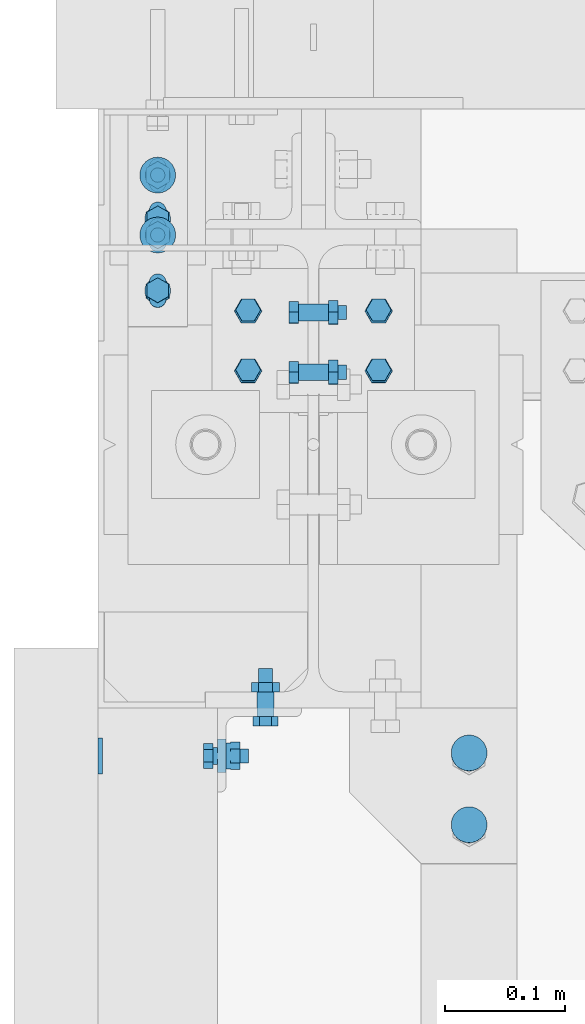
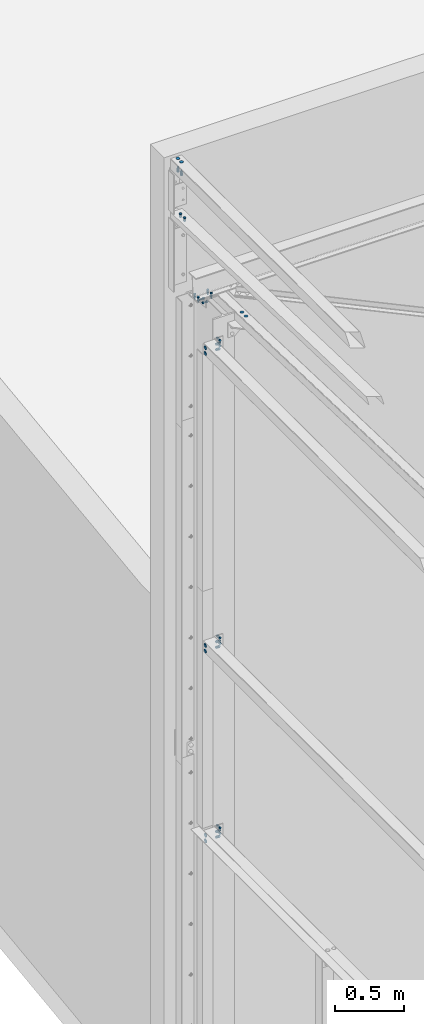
# One storey, part 241 of 362: 16 mechanical fasteners.
"""IFC2X3 building model written with IfcOpenShell, lengths in millimetres."""

from ifc_helpers import new_model, si_unit, frame, frame_2d, origin_with_axes, origin_2d_with_axis, place, context, subcontext, project, spatial, polyline, circle_curve, parameter, trimmed, segment, composite_curve, circle, outline, extrude, source, transform, mapped, material, type_object, element, save


model = new_model("IFC2X3")

# Units and contexts
model_context = context("Model", 3, precision=1e-05, world=origin_with_axes())
body_context = subcontext(model_context, "Body", "Model", "MODEL_VIEW")
ifc_project = project(units=[si_unit("LENGTHUNIT", "METRE", prefix="MILLI"), si_unit("AREAUNIT", "SQUARE_METRE"), si_unit("VOLUMEUNIT", "CUBIC_METRE"), si_unit("MASSUNIT", "GRAM", prefix="KILO"), si_unit("TIMEUNIT", "SECOND"), si_unit("PLANEANGLEUNIT", "RADIAN"), si_unit("SOLIDANGLEUNIT", "STERADIAN"), si_unit("THERMODYNAMICTEMPERATUREUNIT", "DEGREE_CELSIUS"), si_unit("LUMINOUSINTENSITYUNIT", "LUMEN")], contexts=[model_context])

# Site, building, storey
site_placement = place(None, origin_with_axes())
site = spatial("IfcSite", under=ifc_project, at=site_placement, Name="Undefined", CompositionType="ELEMENT")
building_placement = place(site_placement, origin_with_axes())
building = spatial("IfcBuilding", under=site, at=building_placement, Name="Undefined", CompositionType="ELEMENT")
storey_placement = place(building_placement, origin_with_axes())
storey = spatial("IfcBuildingStorey", under=building, at=storey_placement, Name="Undefined", CompositionType="ELEMENT", Elevation=0.0)

# Mechanical fasteners
ifc_material_1 = material(Name="6.8")
mechanical_fastener_type = type_object("IfcMechanicalFastenerType", Name="Bolt assembly")
shared_shape_1 = source(origin_with_axes(), body_context, "Body", "SweptSolid", [
    extrude(circle(Radius=15.0, at=origin_2d_with_axis()), frame((0.0, 0.0, 0.0), z_axis=(0.0, 1.0, 0.0), x_axis=(1.0, 0.0, 0.0)), (0.0, 0.0, 1.0), 4.1),
])
for number, where, z_axis, x_axis, name in (
    (1, (-180.000001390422, 14850.0031003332, 7150.00005188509), (0.0, 0.0, -1.0), (0.0, 1.0, 0.0), "Bolt assembly"),
    (2, (-180.000001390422, 14850.0031509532, 2810.00002755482), (0.0, 0.0, -1.0), (0.0, 1.0, 0.0), "Bolt assembly"),
    (3, (-180.000001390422, 14850.0031374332, 4500.00002767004), (0.0, 0.0, -1.0), (0.0, 1.0, 0.0), "Bolt assembly"),
):
    element("IfcMechanicalFastener", number, at=place(storey_placement, frame(where, z_axis=z_axis, x_axis=x_axis)), inside=storey, type_object=mechanical_fastener_type, material=ifc_material_1, Name=name, NominalDiameter=30.0, NominalLength=4.0, context=body_context, shape_type="MappedRepresentation", body=[
        mapped(shared_shape_1, transform((0.0, 0.0, 25.0))),
        mapped(shared_shape_1, transform((0.0, 0.0, -25.0))),
    ])
mechanical_fastener_1_placement = place(storey_placement, frame((129.999999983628, 14792.5622083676, 7385.02610549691), z_axis=(-1.0, 0.0, 0.0), x_axis=(3.14103090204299e-11, 0.999506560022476, -0.0314107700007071)))
element("IfcMechanicalFastener", 4, at=mechanical_fastener_1_placement, inside=storey, type_object=mechanical_fastener_type, material=ifc_material_1, Name="Bolt assembly", NominalDiameter=30.0, NominalLength=4.0, context=body_context, shape_type="MappedRepresentation", body=[
    mapped(shared_shape_1, transform((0.0, 0.0, 0.0))),
    mapped(shared_shape_1, transform((60.0, 0.0, 0.0))),
])
shared_shape_2 = source(origin_with_axes(), body_context, "Body", "SweptSolid", [
    extrude(circle(Radius=15.0, at=origin_2d_with_axis()), frame((0.0, -3.99702093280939, 0.0), z_axis=(0.0, 1.0, 0.0), x_axis=(1.0, 0.0, 0.0)), (0.0, 0.0, 1.0), 4.1),
])
mechanical_fastener_2_placement = place(storey_placement, frame((-129.997016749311, 15285.0, 8549.99702093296), z_axis=(1.0, 0.0, 0.0), x_axis=(0.0, 1.0, 0.0)))
element("IfcMechanicalFastener", 5, at=mechanical_fastener_2_placement, inside=storey, type_object=mechanical_fastener_type, material=ifc_material_1, Name="Bolt assembly", NominalDiameter=30.0, NominalLength=4.0, context=body_context, shape_type="MappedRepresentation", body=[
    mapped(shared_shape_2, transform((0.0, 0.0, 0.0))),
    mapped(shared_shape_2, transform((49.9999999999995, 0.0, -3.63797880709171e-12))),
])
ifc_material_2 = material(Name="8.8-SB-ZINGUE")
shared_shape_3 = source(origin_with_axes(), body_context, "Body", "SweptSolid", [
    extrude(circle(Radius=7.0, at=origin_2d_with_axis()), frame((0.0, -3.89999843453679, 0.0), z_axis=(0.0, 1.0, 0.0), x_axis=(1.0, 0.0, 0.0)), (0.0, 0.0, 1.0), 4.0),
    extrude(outline(composite_curve([segment(polyline([(-7.0, 7.0), (7.0, 7.0)]), True, "CONTINUOUS"), segment(trimmed(circle_curve(frame_2d((7.0, 0.0), x_axis=(0.0, 1.0)), 7.0), [parameter(0.0)], [parameter(3.14159265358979)], False, "PARAMETER"), True, "CONTINUOUS"), segment(polyline([(7.0, -7.0), (-7.0, -7.0)]), True, "CONTINUOUS"), segment(trimmed(circle_curve(frame_2d((-7.0, 0.0), x_axis=(0.0, -1.0)), 7.0), [parameter(0.0)], [parameter(3.14159265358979)], False, "PARAMETER"), True, "DISCONTINUOUS")], self_intersect=False)), frame((0.0, -0.100011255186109, 0.0), z_axis=(0.0, 1.0, 0.0), x_axis=(1.0, 0.0, 0.0)), (0.0, 0.0, 1.0), 7.1),
    extrude(outline(polyline([(10.39230484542, 0.0), (5.19615242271, 9.00000000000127), (-5.19615242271, 9.00000000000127), (-10.39230484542, 0.0), (-5.19615242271, -9.00000000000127), (5.19615242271, -9.00000000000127), (10.39230484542, 0.0)])), frame((0.0, -11.9199984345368, 0.0), z_axis=(0.0, 1.0, 0.0), x_axis=(1.0, 0.0, 0.0)), (0.0, 0.0, 1.0), 7.92),
    extrude(circle(Radius=6.0, at=origin_2d_with_axis()), frame((0.0, -3.99999923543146, 0.0), z_axis=(0.0, 1.0, 0.0), x_axis=(1.0, 0.0, 0.0)), (0.0, 0.0, 1.0), 30.0),
    extrude(circle(Radius=10.8, at=origin_2d_with_axis()), frame((0.0, 7.0, 0.0), z_axis=(0.0, 1.0, 0.0), x_axis=(1.0, 0.0, 0.0)), (0.0, 0.0, 1.0), 3.96),
    extrude(outline(polyline([(11.5008173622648, 0.0), (5.7504086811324, 9.96000000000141), (-5.7504086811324, 9.96000000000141), (-11.5008173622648, 0.0), (-5.7504086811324, -9.96000000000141), (5.7504086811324, -9.96000000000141), (11.5008173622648, 0.0)])), frame((0.0, 10.96, 0.0), z_axis=(0.0, 1.0, 0.0), x_axis=(1.0, 0.0, 0.0)), (0.0, 0.0, 1.0), 7.92),
])
mechanical_fastener_3_placement = place(storey_placement, frame((-80.0000013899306, 14850.0031003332, 7150.00005188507), z_axis=(0.0, 0.0, -1.0), x_axis=(0.0, 1.0, 0.0)))
element("IfcMechanicalFastener", 6, at=mechanical_fastener_3_placement, inside=storey, type_object=mechanical_fastener_type, material=ifc_material_2, Name="Bolt assembly", NominalDiameter=12.0, NominalLength=30.0, context=body_context, shape_type="MappedRepresentation", body=[
    mapped(shared_shape_3, transform((0.0, 0.0, 25.0))),
    mapped(shared_shape_3, transform((0.0, 0.0, -25.0))),
])
shared_shape_4 = source(origin_with_axes(), body_context, "Body", "SweptSolid", [
    extrude(circle(Radius=7.0, at=origin_2d_with_axis()), frame((0.0, -0.103115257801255, 0.0), z_axis=(0.0, 1.0, 0.0), x_axis=(1.0, 0.0, 0.0)), (0.0, 0.0, 1.0), 13.6),
    extrude(circle(Radius=7.0, at=origin_2d_with_axis()), frame((0.0, -6.9, 0.0), z_axis=(0.0, 1.0, 0.0), x_axis=(1.0, 0.0, 0.0)), (0.0, 0.0, 1.0), 7.0),
    extrude(outline(polyline([(10.39230484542, 0.0), (5.19615242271, 9.00000000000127), (-5.19615242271, 9.00000000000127), (-10.39230484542, 0.0), (-5.19615242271, -9.00000000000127), (5.19615242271, -9.00000000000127), (10.39230484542, 0.0)])), frame((0.0, -14.92, 0.0), z_axis=(0.0, 1.0, 0.0), x_axis=(1.0, 0.0, 0.0)), (0.0, 0.0, 1.0), 7.92),
    extrude(circle(Radius=6.0, at=origin_2d_with_axis()), frame((0.0, -7.0, 0.0), z_axis=(0.0, 1.0, 0.0), x_axis=(1.0, 0.0, 0.0)), (0.0, 0.0, 1.0), 40.0),
    extrude(outline(polyline([(11.5008173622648, 0.0), (5.7504086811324, 9.96000000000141), (-5.7504086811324, 9.96000000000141), (-11.5008173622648, 0.0), (-5.7504086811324, -9.96000000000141), (5.7504086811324, -9.96000000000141), (11.5008173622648, 0.0)])), frame((0.0, 13.4968847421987, 0.0), z_axis=(0.0, 1.0, 0.0), x_axis=(1.0, 0.0, 0.0)), (0.0, 0.0, 1.0), 7.92),
])
for number, where, z_axis, x_axis, name in (
    (7, (-40.0000013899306, 14890.0031176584, 7150.00005217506), (0.0, 0.0, -1.0), (-1.0, 0.0, 0.0), "Bolt assembly"),
    (8, (-40.0000013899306, 14890.0031547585, 4500.00002796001), (0.0, 0.0, -1.0), (-1.0, 0.0, 0.0), "Bolt assembly"),
):
    element("IfcMechanicalFastener", number, at=place(storey_placement, frame(where, z_axis=z_axis, x_axis=x_axis)), inside=storey, type_object=mechanical_fastener_type, material=ifc_material_2, Name=name, NominalDiameter=12.0, NominalLength=40.0, context=body_context, shape_type="MappedRepresentation", body=[
        mapped(shared_shape_4, transform((0.0, 0.0, 25.0))),
        mapped(shared_shape_4, transform((0.0, 0.0, -25.0))),
    ])
shared_shape_5 = source(origin_with_axes(), body_context, "Body", "SweptSolid", [
    extrude(circle(Radius=7.0, at=origin_2d_with_axis()), frame((0.0, -3.89999843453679, 0.0), z_axis=(0.0, 1.0, 0.0), x_axis=(1.0, 0.0, 0.0)), (0.0, 0.0, 1.0), 4.0),
    extrude(outline(composite_curve([segment(polyline([(-7.0, 7.0), (7.0, 7.0)]), True, "CONTINUOUS"), segment(trimmed(circle_curve(frame_2d((7.0, 0.0), x_axis=(0.0, 1.0)), 7.0), [parameter(0.0)], [parameter(3.14159265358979)], False, "PARAMETER"), True, "CONTINUOUS"), segment(polyline([(7.0, -7.0), (-7.0, -7.0)]), True, "CONTINUOUS"), segment(trimmed(circle_curve(frame_2d((-7.0, 0.0), x_axis=(0.0, -1.0)), 7.0), [parameter(0.0)], [parameter(3.14159265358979)], False, "PARAMETER"), True, "DISCONTINUOUS")], self_intersect=False)), frame((0.0, -0.100011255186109, 0.0), z_axis=(0.0, 1.0, 0.0), x_axis=(1.0, 0.0, 0.0)), (0.0, 0.0, 1.0), 7.1),
    extrude(outline(polyline([(10.39230484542, 0.0), (5.19615242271, 9.00000000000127), (-5.19615242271, 9.00000000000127), (-10.39230484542, 0.0), (-5.19615242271, -9.00000000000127), (5.19615242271, -9.00000000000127), (10.39230484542, 0.0)])), frame((0.0, -11.9199984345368, 0.0), z_axis=(0.0, 1.0, 0.0), x_axis=(1.0, 0.0, 0.0)), (0.0, 0.0, 1.0), 7.92),
    extrude(circle(Radius=6.0, at=origin_2d_with_axis()), frame((0.0, -3.99999923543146, 0.0), z_axis=(0.0, 1.0, 0.0), x_axis=(1.0, 0.0, 0.0)), (0.0, 0.0, 1.0), 30.0),
    extrude(circle(Radius=10.8, at=origin_2d_with_axis()), frame((0.0, 7.0, 0.0), z_axis=(0.0, 1.0, 0.0), x_axis=(1.0, 0.0, 0.0)), (0.0, 0.0, 1.0), 3.96),
    extrude(outline(polyline([(11.5008173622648, 0.0), (5.7504086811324, 9.96000000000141), (-5.7504086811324, 9.96000000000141), (-11.5008173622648, 0.0), (-5.7504086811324, -9.96000000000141), (5.7504086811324, -9.96000000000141), (11.5008173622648, 0.0)])), frame((0.0, 10.96, 0.0), z_axis=(0.0, 1.0, 0.0), x_axis=(1.0, 0.0, 0.0)), (0.0, 0.0, 1.0), 7.92),
])
mechanical_fastener_4_placement = place(storey_placement, frame((-80.0000013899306, 14850.0031509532, 2810.0000275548), z_axis=(0.0, 0.0, -1.0), x_axis=(0.0, 1.0, 0.0)))
element("IfcMechanicalFastener", 9, at=mechanical_fastener_4_placement, inside=storey, type_object=mechanical_fastener_type, material=ifc_material_2, Name="Bolt assembly", NominalDiameter=12.0, NominalLength=30.0, context=body_context, shape_type="MappedRepresentation", body=[
    mapped(shared_shape_5, transform((0.0, 0.0, 25.0))),
    mapped(shared_shape_5, transform((0.0, 0.0, -25.0))),
])
shared_shape_6 = source(origin_with_axes(), body_context, "Body", "SweptSolid", [
    extrude(circle(Radius=7.0, at=origin_2d_with_axis()), frame((0.0, -0.103165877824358, 0.0), z_axis=(0.0, 1.0, 0.0), x_axis=(1.0, 0.0, 0.0)), (0.0, 0.0, 1.0), 13.6),
    extrude(circle(Radius=7.0, at=origin_2d_with_axis()), frame((0.0, -6.9, 0.0), z_axis=(0.0, 1.0, 0.0), x_axis=(1.0, 0.0, 0.0)), (0.0, 0.0, 1.0), 7.0),
    extrude(outline(polyline([(10.39230484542, 0.0), (5.19615242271, 9.00000000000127), (-5.19615242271, 9.00000000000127), (-10.39230484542, 0.0), (-5.19615242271, -9.00000000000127), (5.19615242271, -9.00000000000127), (10.39230484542, 0.0)])), frame((0.0, -14.92, 0.0), z_axis=(0.0, 1.0, 0.0), x_axis=(1.0, 0.0, 0.0)), (0.0, 0.0, 1.0), 7.92),
    extrude(circle(Radius=6.0, at=origin_2d_with_axis()), frame((0.0, -7.0, 0.0), z_axis=(0.0, 1.0, 0.0), x_axis=(1.0, 0.0, 0.0)), (0.0, 0.0, 1.0), 40.0),
    extrude(outline(polyline([(11.5008173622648, 0.0), (5.7504086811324, 9.96000000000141), (-5.7504086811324, 9.96000000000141), (-11.5008173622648, 0.0), (-5.7504086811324, -9.96000000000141), (5.7504086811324, -9.96000000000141), (11.5008173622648, 0.0)])), frame((0.0, 13.4968341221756, 0.0), z_axis=(0.0, 1.0, 0.0), x_axis=(1.0, 0.0, 0.0)), (0.0, 0.0, 1.0), 7.92),
])
mechanical_fastener_5_placement = place(storey_placement, frame((-40.0000013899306, 14890.0031682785, 2810.00002784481), z_axis=(0.0, 0.0, -1.0), x_axis=(-1.0, 0.0, 0.0)))
element("IfcMechanicalFastener", 10, at=mechanical_fastener_5_placement, inside=storey, type_object=mechanical_fastener_type, material=ifc_material_2, Name="Bolt assembly", NominalDiameter=12.0, NominalLength=40.0, context=body_context, shape_type="MappedRepresentation", body=[
    mapped(shared_shape_6, transform((0.0, 0.0, 25.0))),
    mapped(shared_shape_6, transform((0.0, 0.0, -25.0))),
])
shared_shape_7 = source(origin_with_axes(), body_context, "Body", "SweptSolid", [
    extrude(circle(Radius=7.0, at=origin_2d_with_axis()), frame((0.0, -3.89999843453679, 0.0), z_axis=(0.0, 1.0, 0.0), x_axis=(1.0, 0.0, 0.0)), (0.0, 0.0, 1.0), 4.0),
    extrude(outline(composite_curve([segment(polyline([(-7.0, 7.0), (7.0, 7.0)]), True, "CONTINUOUS"), segment(trimmed(circle_curve(frame_2d((7.0, 0.0), x_axis=(0.0, 1.0)), 7.0), [parameter(0.0)], [parameter(3.14159265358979)], False, "PARAMETER"), True, "CONTINUOUS"), segment(polyline([(7.0, -7.0), (-7.0, -7.0)]), True, "CONTINUOUS"), segment(trimmed(circle_curve(frame_2d((-7.0, 0.0), x_axis=(0.0, -1.0)), 7.0), [parameter(0.0)], [parameter(3.14159265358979)], False, "PARAMETER"), True, "DISCONTINUOUS")], self_intersect=False)), frame((0.0, -0.100011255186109, 0.0), z_axis=(0.0, 1.0, 0.0), x_axis=(1.0, 0.0, 0.0)), (0.0, 0.0, 1.0), 7.1),
    extrude(outline(polyline([(10.39230484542, 0.0), (5.19615242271, 9.00000000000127), (-5.19615242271, 9.00000000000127), (-10.39230484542, 0.0), (-5.19615242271, -9.00000000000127), (5.19615242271, -9.00000000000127), (10.39230484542, 0.0)])), frame((0.0, -11.9199984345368, 0.0), z_axis=(0.0, 1.0, 0.0), x_axis=(1.0, 0.0, 0.0)), (0.0, 0.0, 1.0), 7.92),
    extrude(circle(Radius=6.0, at=origin_2d_with_axis()), frame((0.0, -3.99999923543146, 0.0), z_axis=(0.0, 1.0, 0.0), x_axis=(1.0, 0.0, 0.0)), (0.0, 0.0, 1.0), 30.0),
    extrude(circle(Radius=10.8, at=origin_2d_with_axis()), frame((0.0, 7.0, 0.0), z_axis=(0.0, 1.0, 0.0), x_axis=(1.0, 0.0, 0.0)), (0.0, 0.0, 1.0), 3.96),
    extrude(outline(polyline([(11.5008173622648, 0.0), (5.7504086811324, 9.96000000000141), (-5.7504086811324, 9.96000000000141), (-11.5008173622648, 0.0), (-5.7504086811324, -9.96000000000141), (5.7504086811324, -9.96000000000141), (11.5008173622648, 0.0)])), frame((0.0, 10.96, 0.0), z_axis=(0.0, 1.0, 0.0), x_axis=(1.0, 0.0, 0.0)), (0.0, 0.0, 1.0), 7.92),
])
mechanical_fastener_6_placement = place(storey_placement, frame((-80.0000013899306, 14850.0031374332, 4500.00002767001), z_axis=(0.0, 0.0, -1.0), x_axis=(0.0, 1.0, 0.0)))
element("IfcMechanicalFastener", 11, at=mechanical_fastener_6_placement, inside=storey, type_object=mechanical_fastener_type, material=ifc_material_2, Name="Bolt assembly", NominalDiameter=12.0, NominalLength=30.0, context=body_context, shape_type="MappedRepresentation", body=[
    mapped(shared_shape_7, transform((0.0, 0.0, 25.0))),
    mapped(shared_shape_7, transform((0.0, 0.0, -25.0))),
])
shared_shape_8 = source(origin_with_axes(), body_context, "Body", "SweptSolid", [
    extrude(circle(Radius=7.0, at=origin_2d_with_axis()), frame((0.0, -4.3000001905, 0.0), z_axis=(0.0, 1.0, 0.0), x_axis=(1.0, 0.0, 0.0)), (0.0, 0.0, 1.0), 8.6),
    extrude(circle(Radius=7.0, at=origin_2d_with_axis()), frame((0.0, -12.3999999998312, 0.0), z_axis=(0.0, 1.0, 0.0), x_axis=(1.0, 0.0, 0.0)), (0.0, 0.0, 1.0), 8.0),
    extrude(circle(Radius=7.0, at=origin_2d_with_axis()), frame((0.0, 4.39999999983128, 0.0), z_axis=(0.0, 1.0, 0.0), x_axis=(1.0, 0.0, 0.0)), (0.0, 0.0, 1.0), 8.1),
    extrude(outline(polyline([(10.39230484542, 0.0), (5.19615242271, 9.00000000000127), (-5.19615242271, 9.00000000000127), (-10.39230484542, 0.0), (-5.19615242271, -9.00000000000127), (5.19615242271, -9.00000000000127), (10.39230484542, 0.0)])), frame((0.0, -20.4199999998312, 0.0), z_axis=(0.0, 1.0, 0.0), x_axis=(1.0, 0.0, 0.0)), (0.0, 0.0, 1.0), 7.92),
    extrude(circle(Radius=6.0, at=origin_2d_with_axis()), frame((0.0, -12.4999999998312, 0.0), z_axis=(0.0, 1.0, 0.0), x_axis=(1.0, 0.0, 0.0)), (0.0, 0.0, 1.0), 40.0),
    extrude(outline(polyline([(11.5008173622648, 0.0), (5.7504086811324, 9.96000000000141), (-5.7504086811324, 9.96000000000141), (-11.5008173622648, 0.0), (-5.7504086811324, -9.96000000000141), (5.7504086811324, -9.96000000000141), (11.5008173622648, 0.0)])), frame((0.0, 12.4999999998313, 0.0), z_axis=(0.0, 1.0, 0.0), x_axis=(1.0, 0.0, 0.0)), (0.0, 0.0, 1.0), 7.92),
])
mechanical_fastener_7_placement = place(storey_placement, frame((0.0, 15195.288317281, 7322.34532370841), z_axis=(3.14103090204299e-11, 0.999506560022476, -0.0314107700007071), x_axis=(7.58071938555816e-11, 0.0314107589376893, 0.999506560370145)))
element("IfcMechanicalFastener", 12, at=mechanical_fastener_7_placement, inside=storey, type_object=mechanical_fastener_type, material=ifc_material_2, Name="Bolt assembly", NominalDiameter=12.0, NominalLength=40.0, context=body_context, shape_type="MappedRepresentation", body=[
    mapped(shared_shape_8, transform((0.0, 0.0, -25.0))),
    mapped(shared_shape_8, transform((0.0, 0.0, 25.0))),
])
shared_shape_9 = source(origin_with_axes(), body_context, "Body", "SweptSolid", [
    extrude(circle(Radius=7.0, at=origin_2d_with_axis()), frame((0.0, -8.40001950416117, 0.0), z_axis=(0.0, 1.0, 0.0), x_axis=(1.0, 0.0, 0.0)), (0.0, 0.0, 1.0), 8.5),
    extrude(circle(Radius=7.0, at=origin_2d_with_axis()), frame((0.0, -0.100011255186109, 0.0), z_axis=(0.0, 1.0, 0.0), x_axis=(1.0, 0.0, 0.0)), (0.0, 0.0, 1.0), 8.1),
    extrude(outline(polyline([(10.39230484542, 0.0), (5.19615242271, 9.00000000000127), (-5.19615242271, 9.00000000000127), (-10.39230484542, 0.0), (-5.19615242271, -9.00000000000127), (5.19615242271, -9.00000000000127), (10.39230484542, 0.0)])), frame((0.0, -16.4200195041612, 0.0), z_axis=(0.0, 1.0, 0.0), x_axis=(1.0, 0.0, 0.0)), (0.0, 0.0, 1.0), 7.92),
    extrude(circle(Radius=6.0, at=origin_2d_with_axis()), frame((0.0, -8.5, 0.0), z_axis=(0.0, 1.0, 0.0), x_axis=(1.0, 0.0, 0.0)), (0.0, 0.0, 1.0), 40.0),
    extrude(outline(polyline([(11.5008173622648, 0.0), (5.7504086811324, 9.96000000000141), (-5.7504086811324, 9.96000000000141), (-11.5008173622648, 0.0), (-5.7504086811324, -9.96000000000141), (5.7504086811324, -9.96000000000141), (11.5008173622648, 0.0)])), frame((0.0, 8.00000527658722, 0.0), z_axis=(0.0, 1.0, 0.0), x_axis=(1.0, 0.0, 0.0)), (0.0, 0.0, 1.0), 7.92),
])
for number, where, z_axis, x_axis, name in (
    (13, (54.4999999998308, 15196.8588781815, 7372.32065100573), (0.0, -0.999506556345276, 0.031410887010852), (-1.0, 0.0, 0.0), "Bolt assembly"),
    (14, (-54.4999999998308, 15196.8588781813, 7372.32065100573), (3.14103090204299e-11, 0.999506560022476, -0.0314107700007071), (1.0, 0.0, 0.0), "Bolt assembly"),
):
    element("IfcMechanicalFastener", number, at=place(storey_placement, frame(where, z_axis=z_axis, x_axis=x_axis)), inside=storey, type_object=mechanical_fastener_type, material=ifc_material_2, Name=name, NominalDiameter=12.0, NominalLength=40.0, context=body_context, shape_type="MappedRepresentation", body=[
        mapped(shared_shape_9, transform((0.0, 0.0, -25.0))),
        mapped(shared_shape_9, transform((0.0, 0.0, 25.0))),
    ])
shared_shape_10 = source(origin_with_axes(), body_context, "Body", "SweptSolid", [
    extrude(circle(Radius=7.0, at=origin_2d_with_axis()), frame((0.0, -3.77250161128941, 0.0), z_axis=(0.0, 1.0, 0.0), x_axis=(1.0, 0.0, 0.0)), (0.0, 0.0, 1.0), 4.0),
    extrude(outline(composite_curve([segment(polyline([(-7.0, 7.0), (7.0, 7.0)]), True, "CONTINUOUS"), segment(trimmed(circle_curve(frame_2d((7.0, 0.0), x_axis=(0.0, 1.0)), 7.0), [parameter(0.0)], [parameter(3.14159265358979)], False, "PARAMETER"), True, "CONTINUOUS"), segment(polyline([(7.0, -7.0), (-7.0, -7.0)]), True, "CONTINUOUS"), segment(trimmed(circle_curve(frame_2d((-7.0, 0.0), x_axis=(0.0, -1.0)), 7.0), [parameter(0.0)], [parameter(3.14159265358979)], False, "PARAMETER"), True, "DISCONTINUOUS")], self_intersect=False)), frame((0.0, -0.100011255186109, 0.0), z_axis=(0.0, 1.0, 0.0), x_axis=(1.0, 0.0, 0.0)), (0.0, 0.0, 1.0), 6.1),
    extrude(outline(polyline([(10.39230484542, 0.0), (5.19615242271, 9.00000000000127), (-5.19615242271, 9.00000000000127), (-10.39230484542, 0.0), (-5.19615242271, -9.00000000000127), (5.19615242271, -9.00000000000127), (10.39230484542, 0.0)])), frame((0.0, -11.7925016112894, 0.0), z_axis=(0.0, 1.0, 0.0), x_axis=(1.0, 0.0, 0.0)), (0.0, 0.0, 1.0), 7.92),
    extrude(circle(Radius=6.0, at=origin_2d_with_axis()), frame((0.0, -3.87250161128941, 0.0), z_axis=(0.0, 1.0, 0.0), x_axis=(1.0, 0.0, 0.0)), (0.0, 0.0, 1.0), 30.0),
    extrude(circle(Radius=10.8, at=origin_2d_with_axis()), frame((0.0, 6.0, 0.0), z_axis=(0.0, 1.0, 0.0), x_axis=(1.0, 0.0, 0.0)), (0.0, 0.0, 1.0), 3.96),
    extrude(outline(polyline([(11.5008173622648, 0.0), (5.7504086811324, 9.96000000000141), (-5.7504086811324, 9.96000000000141), (-11.5008173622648, 0.0), (-5.7504086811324, -9.96000000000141), (5.7504086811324, -9.96000000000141), (11.5008173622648, 0.0)])), frame((0.0, 9.9600084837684, 0.0), z_axis=(0.0, 1.0, 0.0), x_axis=(1.0, 0.0, 0.0)), (0.0, 0.0, 1.0), 7.92),
])
mechanical_fastener_8_placement = place(storey_placement, frame((-129.999999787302, 15238.5444282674, 8072.35326809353), z_axis=(-1.0, 0.0, 0.0), x_axis=(0.0, 0.99950644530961, -0.0314144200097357)))
element("IfcMechanicalFastener", 15, at=mechanical_fastener_8_placement, inside=storey, type_object=mechanical_fastener_type, material=ifc_material_2, Name="Bolt assembly", NominalDiameter=12.0, NominalLength=30.0, context=body_context, shape_type="MappedRepresentation", body=[
    mapped(shared_shape_10, transform((0.0, 0.0, 0.0))),
    mapped(shared_shape_10, transform((60.0, 0.0, 0.0))),
])
shared_shape_11 = source(origin_with_axes(), body_context, "Body", "SweptSolid", [
    extrude(circle(Radius=7.0, at=origin_2d_with_axis()), frame((0.0, -0.0970209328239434, 0.0), z_axis=(0.0, 1.0, 0.0), x_axis=(1.0, 0.0, 0.0)), (0.0, 0.0, 1.0), 4.1),
    extrude(outline(composite_curve([segment(polyline([(-7.0, 7.0), (7.0, 7.0)]), True, "CONTINUOUS"), segment(trimmed(circle_curve(frame_2d((7.0, 0.0), x_axis=(0.0, 1.0)), 7.0), [parameter(0.0)], [parameter(3.14159265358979)], False, "PARAMETER"), True, "CONTINUOUS"), segment(polyline([(7.0, -7.0), (-7.0, -7.0)]), True, "CONTINUOUS"), segment(trimmed(circle_curve(frame_2d((-7.0, 0.0), x_axis=(0.0, -1.0)), 7.0), [parameter(0.0)], [parameter(3.14159265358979)], False, "PARAMETER"), True, "DISCONTINUOUS")], self_intersect=False)), frame((0.0, -9.9, 0.0), z_axis=(0.0, 1.0, 0.0), x_axis=(1.0, 0.0, 0.0)), (0.0, 0.0, 1.0), 10.0),
    extrude(outline(polyline([(10.39230484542, 0.0), (5.19615242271, 9.00000000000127), (-5.19615242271, 9.00000000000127), (-10.39230484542, 0.0), (-5.19615242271, -9.00000000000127), (5.19615242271, -9.00000000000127), (10.39230484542, 0.0)])), frame((0.0, -21.88, 0.0), z_axis=(0.0, 1.0, 0.0), x_axis=(1.0, 0.0, 0.0)), (0.0, 0.0, 1.0), 7.92),
    extrude(circle(Radius=6.0, at=origin_2d_with_axis()), frame((0.0, -13.96, 0.0), z_axis=(0.0, 1.0, 0.0), x_axis=(1.0, 0.0, 0.0)), (0.0, 0.0, 1.0), 40.0),
    extrude(circle(Radius=10.8, at=origin_2d_with_axis()), frame((0.0, -13.96, 0.0), z_axis=(0.0, 1.0, 0.0), x_axis=(1.0, 0.0, 0.0)), (0.0, 0.0, 1.0), 3.96),
    extrude(outline(polyline([(11.5008173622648, 0.0), (5.7504086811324, 9.96000000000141), (-5.7504086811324, 9.96000000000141), (-11.5008173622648, 0.0), (-5.7504086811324, -9.96000000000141), (5.7504086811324, -9.96000000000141), (11.5008173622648, 0.0)])), frame((0.0, 4.00297906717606, 0.0), z_axis=(0.0, 1.0, 0.0), x_axis=(1.0, 0.0, 0.0)), (0.0, 0.0, 1.0), 7.92),
])
mechanical_fastener_9_placement = place(storey_placement, frame((-129.997016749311, 15285.0, 8449.99702093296), z_axis=(1.0, 0.0, 0.0), x_axis=(0.0, 1.0, 0.0)))
element("IfcMechanicalFastener", 16, at=mechanical_fastener_9_placement, inside=storey, type_object=mechanical_fastener_type, material=ifc_material_2, Name="Bolt assembly", NominalDiameter=12.0, NominalLength=40.0, context=body_context, shape_type="MappedRepresentation", body=[
    mapped(shared_shape_11, transform((0.0, 0.0, 0.0))),
    mapped(shared_shape_11, transform((49.9999999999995, 0.0, -3.63797880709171e-12))),
])

save(model, "model.ifc")
